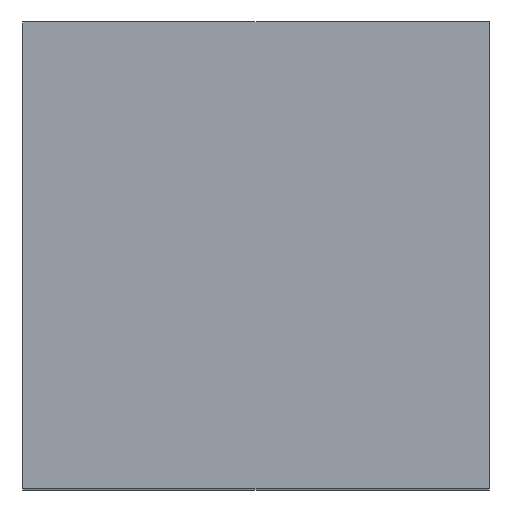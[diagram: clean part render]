
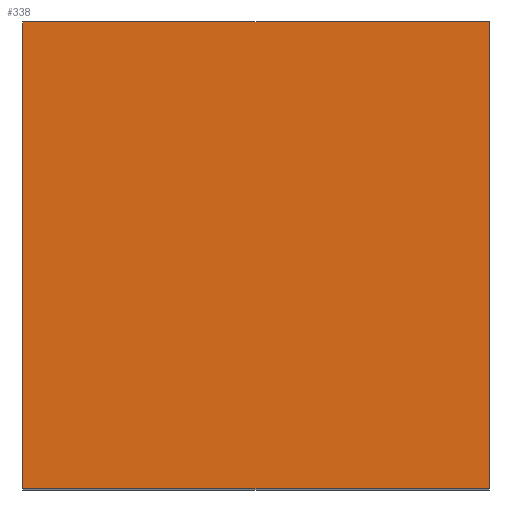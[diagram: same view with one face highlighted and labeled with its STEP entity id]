
A CAD part, top view. The second image highlights one B-rep face of the part: STEP entity #338.
In plain terms, the highlighted planar face has unit normal (0, 0, 1).
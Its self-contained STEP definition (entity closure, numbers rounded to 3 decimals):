
#24 = VERTEX_POINT('',#25);
#25 = CARTESIAN_POINT('',(-546.,-44.913,36.));
#32 = PLANE('',#33);
#33 = AXIS2_PLACEMENT_3D('',#34,#35,#36);
#34 = CARTESIAN_POINT('',(-546.,-44.913,18.));
#35 = DIRECTION('',(1.,0.,-0.));
#36 = DIRECTION('',(0.,0.,1.));
#44 = PLANE('',#45);
#45 = AXIS2_PLACEMENT_3D('',#46,#47,#48);
#46 = CARTESIAN_POINT('',(-546.,-44.913,18.));
#47 = DIRECTION('',(-0.,1.,0.));
#48 = DIRECTION('',(0.,0.,1.));
#85 = VERTEX_POINT('',#86);
#86 = CARTESIAN_POINT('',(-546.,-32.913,36.));
#100 = PLANE('',#101);
#101 = AXIS2_PLACEMENT_3D('',#102,#103,#104);
#102 = CARTESIAN_POINT('',(-546.,-32.913,18.));
#103 = DIRECTION('',(-0.,1.,0.));
#104 = DIRECTION('',(0.,0.,1.));
#112 = EDGE_CURVE('',#24,#85,#113,.T.);
#113 = SURFACE_CURVE('',#114,(#118,#125),.PCURVE_S1.);
#114 = LINE('',#115,#116);
#115 = CARTESIAN_POINT('',(-546.,-44.913,36.));
#116 = VECTOR('',#117,1.);
#117 = DIRECTION('',(-0.,1.,0.));
#118 = PCURVE('',#32,#119);
#119 = DEFINITIONAL_REPRESENTATION('',(#120),#124);
#120 = LINE('',#121,#122);
#121 = CARTESIAN_POINT('',(18.,0.));
#122 = VECTOR('',#123,1.);
#123 = DIRECTION('',(0.,-1.));
#124 = ( GEOMETRIC_REPRESENTATION_CONTEXT(2) 
PARAMETRIC_REPRESENTATION_CONTEXT() REPRESENTATION_CONTEXT('2D SPACE',''
  ) );
#125 = PCURVE('',#126,#131);
#126 = PLANE('',#127);
#127 = AXIS2_PLACEMENT_3D('',#128,#129,#130);
#128 = CARTESIAN_POINT('',(-546.,-44.913,36.));
#129 = DIRECTION('',(0.,0.,1.));
#130 = DIRECTION('',(1.,0.,-0.));
#131 = DEFINITIONAL_REPRESENTATION('',(#132),#136);
#132 = LINE('',#133,#134);
#133 = CARTESIAN_POINT('',(0.,0.));
#134 = VECTOR('',#135,1.);
#135 = DIRECTION('',(0.,1.));
#136 = ( GEOMETRIC_REPRESENTATION_CONTEXT(2) 
PARAMETRIC_REPRESENTATION_CONTEXT() REPRESENTATION_CONTEXT('2D SPACE',''
  ) );
#144 = VERTEX_POINT('',#145);
#145 = CARTESIAN_POINT('',(-534.,-44.913,36.));
#152 = PLANE('',#153);
#153 = AXIS2_PLACEMENT_3D('',#154,#155,#156);
#154 = CARTESIAN_POINT('',(-534.,-44.913,18.));
#155 = DIRECTION('',(1.,0.,-0.));
#156 = DIRECTION('',(0.,0.,1.));
#195 = VERTEX_POINT('',#196);
#196 = CARTESIAN_POINT('',(-534.,-32.913,36.));
#217 = EDGE_CURVE('',#144,#195,#218,.T.);
#218 = SURFACE_CURVE('',#219,(#223,#230),.PCURVE_S1.);
#219 = LINE('',#220,#221);
#220 = CARTESIAN_POINT('',(-534.,-44.913,36.));
#221 = VECTOR('',#222,1.);
#222 = DIRECTION('',(-0.,1.,0.));
#223 = PCURVE('',#152,#224);
#224 = DEFINITIONAL_REPRESENTATION('',(#225),#229);
#225 = LINE('',#226,#227);
#226 = CARTESIAN_POINT('',(18.,0.));
#227 = VECTOR('',#228,1.);
#228 = DIRECTION('',(0.,-1.));
#229 = ( GEOMETRIC_REPRESENTATION_CONTEXT(2) 
PARAMETRIC_REPRESENTATION_CONTEXT() REPRESENTATION_CONTEXT('2D SPACE',''
  ) );
#230 = PCURVE('',#126,#231);
#231 = DEFINITIONAL_REPRESENTATION('',(#232),#236);
#232 = LINE('',#233,#234);
#233 = CARTESIAN_POINT('',(12.,0.));
#234 = VECTOR('',#235,1.);
#235 = DIRECTION('',(0.,1.));
#236 = ( GEOMETRIC_REPRESENTATION_CONTEXT(2) 
PARAMETRIC_REPRESENTATION_CONTEXT() REPRESENTATION_CONTEXT('2D SPACE',''
  ) );
#263 = EDGE_CURVE('',#24,#144,#264,.T.);
#264 = SURFACE_CURVE('',#265,(#269,#276),.PCURVE_S1.);
#265 = LINE('',#266,#267);
#266 = CARTESIAN_POINT('',(-546.,-44.913,36.));
#267 = VECTOR('',#268,1.);
#268 = DIRECTION('',(1.,0.,-0.));
#269 = PCURVE('',#44,#270);
#270 = DEFINITIONAL_REPRESENTATION('',(#271),#275);
#271 = LINE('',#272,#273);
#272 = CARTESIAN_POINT('',(18.,0.));
#273 = VECTOR('',#274,1.);
#274 = DIRECTION('',(0.,1.));
#275 = ( GEOMETRIC_REPRESENTATION_CONTEXT(2) 
PARAMETRIC_REPRESENTATION_CONTEXT() REPRESENTATION_CONTEXT('2D SPACE',''
  ) );
#276 = PCURVE('',#126,#277);
#277 = DEFINITIONAL_REPRESENTATION('',(#278),#282);
#278 = LINE('',#279,#280);
#279 = CARTESIAN_POINT('',(0.,0.));
#280 = VECTOR('',#281,1.);
#281 = DIRECTION('',(1.,0.));
#282 = ( GEOMETRIC_REPRESENTATION_CONTEXT(2) 
PARAMETRIC_REPRESENTATION_CONTEXT() REPRESENTATION_CONTEXT('2D SPACE',''
  ) );
#310 = EDGE_CURVE('',#85,#195,#311,.T.);
#311 = SURFACE_CURVE('',#312,(#316,#323),.PCURVE_S1.);
#312 = LINE('',#313,#314);
#313 = CARTESIAN_POINT('',(-546.,-32.913,36.));
#314 = VECTOR('',#315,1.);
#315 = DIRECTION('',(1.,0.,-0.));
#316 = PCURVE('',#100,#317);
#317 = DEFINITIONAL_REPRESENTATION('',(#318),#322);
#318 = LINE('',#319,#320);
#319 = CARTESIAN_POINT('',(18.,0.));
#320 = VECTOR('',#321,1.);
#321 = DIRECTION('',(0.,1.));
#322 = ( GEOMETRIC_REPRESENTATION_CONTEXT(2) 
PARAMETRIC_REPRESENTATION_CONTEXT() REPRESENTATION_CONTEXT('2D SPACE',''
  ) );
#323 = PCURVE('',#126,#324);
#324 = DEFINITIONAL_REPRESENTATION('',(#325),#329);
#325 = LINE('',#326,#327);
#326 = CARTESIAN_POINT('',(0.,12.));
#327 = VECTOR('',#328,1.);
#328 = DIRECTION('',(1.,0.));
#329 = ( GEOMETRIC_REPRESENTATION_CONTEXT(2) 
PARAMETRIC_REPRESENTATION_CONTEXT() REPRESENTATION_CONTEXT('2D SPACE',''
  ) );
#338 = ADVANCED_FACE('',(#339),#126,.T.);
#339 = FACE_BOUND('',#340,.T.);
#340 = EDGE_LOOP('',(#341,#342,#343,#344));
#341 = ORIENTED_EDGE('',*,*,#112,.F.);
#342 = ORIENTED_EDGE('',*,*,#263,.T.);
#343 = ORIENTED_EDGE('',*,*,#217,.T.);
#344 = ORIENTED_EDGE('',*,*,#310,.F.);
